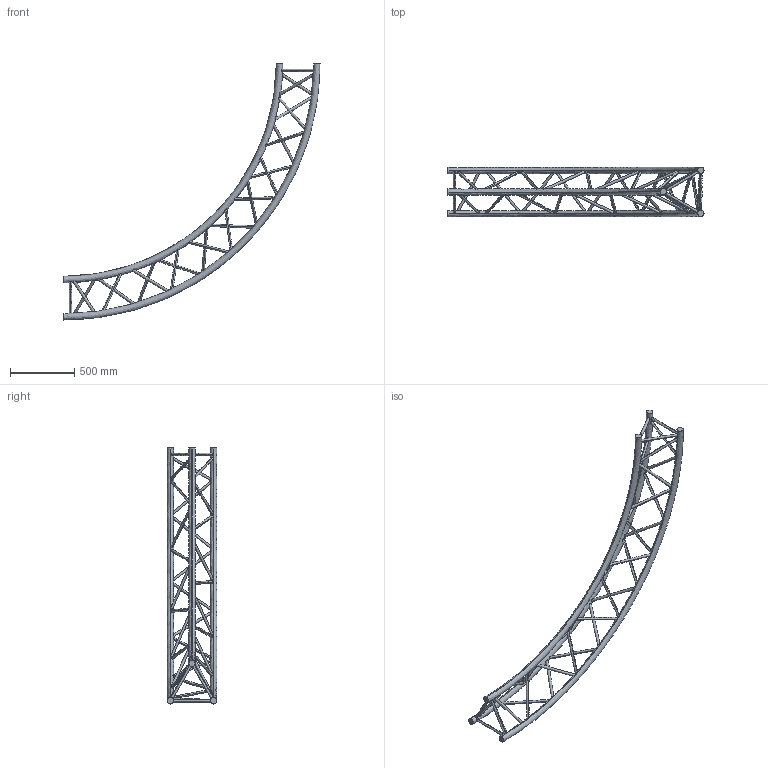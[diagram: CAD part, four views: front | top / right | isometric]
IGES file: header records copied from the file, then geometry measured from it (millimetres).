
Start section: SolidWorks IGES file using analytic representation for surfaces
Global section: file name: K:\BIBLIO\asd_biblio\SX390\Cercles\SXC39PI\SXC39400PI\SXC39400PI.IGS; native system: SolidWorks 2009; preprocessor: SolidWorks 2009; author: des3; date: 091021.134411; units: millimetre
Bounding box: 2000 x 387 x 2000 mm (x, y, z)
Surface area: 2221930.4 mm2 (no closed solid volume)
Topology: 0 solids, 0 shells, 90 faces, 6391 edges, 6391 vertices
Faces by surface type: revolution 78, bspline 12
